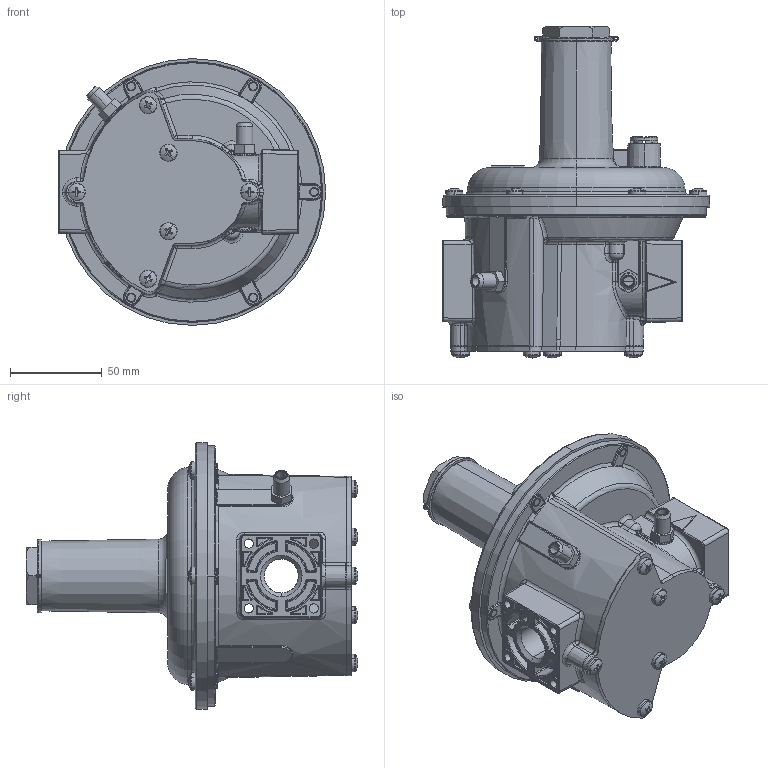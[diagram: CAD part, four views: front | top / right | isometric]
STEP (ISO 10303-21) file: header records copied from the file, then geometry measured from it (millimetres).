
FILE_DESCRIPTION (( 'STEP AP203' ), '1' );
FILE_NAME ('009.0220.101-3.STEP', '2014-01-13T14:52:29', ( 'Adminwatts' ), ( 'Microsoft' ), 'SwSTEP 2.0', 'SolidWorks 2012', '' );
FILE_SCHEMA (( 'CONFIG_CONTROL_DESIGN' ));
Length unit declared in the file: millimetre
Products named in the file (1): 009.0220.101-3
Bounding box: 145.72 x 180.88 x 145.44 mm (x, y, z)
Surface area: 99832.2 mm2 (no closed solid volume)
Topology: 0 solids, 27 shells, 1242 faces, 3693 edges, 2356 vertices
Faces by surface type: plane 445, cylinder 300, bspline 185, torus 147, cone 92, sphere 73
Entity records: 48567 total; most frequent: CARTESIAN_POINT 17050, DIRECTION 6642, ORIENTED_EDGE 6212, EDGE_CURVE 3649, AXIS2_PLACEMENT_3D 2637, VERTEX_POINT 2348, CIRCLE 1579, VECTOR 1368
